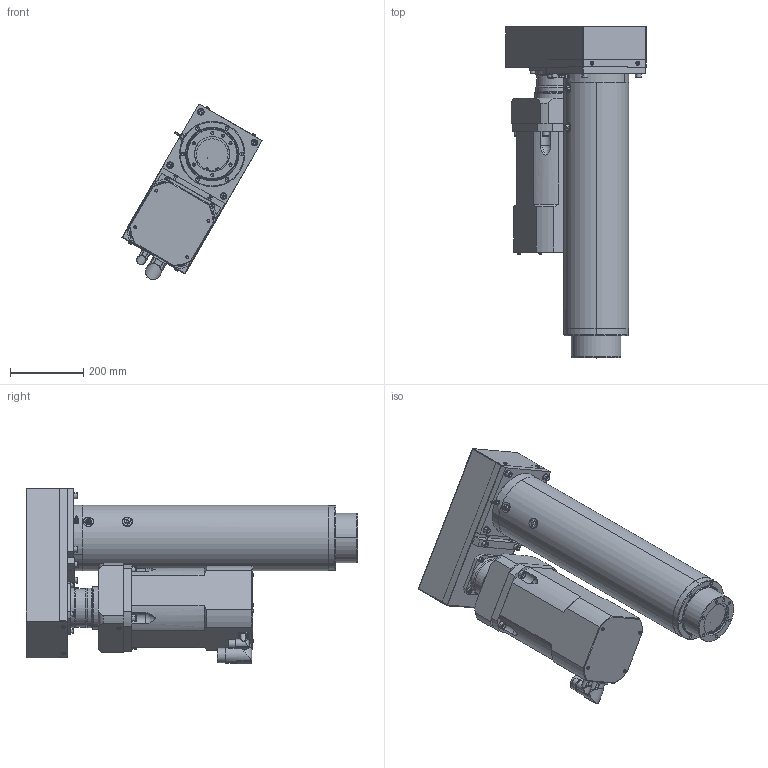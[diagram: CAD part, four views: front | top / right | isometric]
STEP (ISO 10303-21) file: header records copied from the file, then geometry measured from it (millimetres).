
FILE_DESCRIPTION (( 'STEP AP203' ), '1' );
FILE_NAME ('LN5P0600-035-025HG0.STEP', '2014-11-18T10:05:48', ( 'Holtz' ), ( '' ), 'SwSTEP 2.0', 'SolidWorks 2013', '' );
FILE_SCHEMA (( 'CONFIG_CONTROL_DESIGN' ));
Length unit declared in the file: millimetre
Products named in the file (1): LN5P0600-035-025HG0
Bounding box: 381.77 x 903.5 x 478.79 mm (x, y, z)
Volume: 29767961.1 mm3; surface area: 2684993.4 mm2
Topology: 46 solids, 46 shells, 1502 faces, 3495 edges, 2091 vertices
Faces by surface type: plane 564, cylinder 562, cone 266, torus 78, bspline 30, sphere 2
Entity records: 44382 total; most frequent: CARTESIAN_POINT 9852, DIRECTION 7634, ORIENTED_EDGE 6702, EDGE_CURVE 3351, AXIS2_PLACEMENT_3D 2990, VERTEX_POINT 2091, EDGE_LOOP 1812, VECTOR 1654
